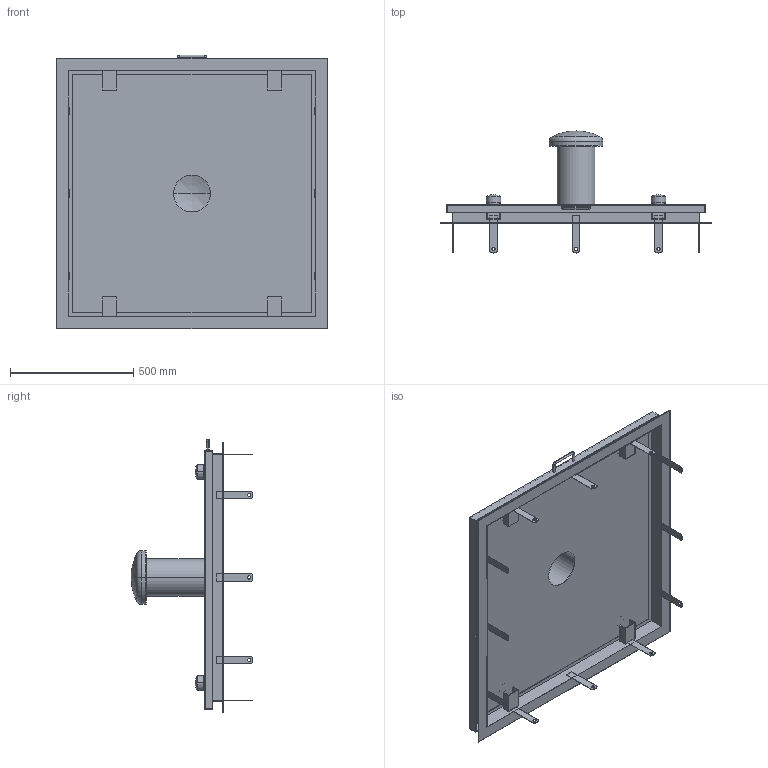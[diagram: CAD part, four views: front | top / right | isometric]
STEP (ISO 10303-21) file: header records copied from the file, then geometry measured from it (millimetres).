
FILE_DESCRIPTION((''),'2;1');
FILE_NAME('52297104','2024-10-01T13:31:23',('hil'),('HUBER SE'),'CREO PARAMETRIC BY PTC INC, 2022162','CREO PARAMETRIC BY PTC INC, 2022162','');
FILE_SCHEMA(('AUTOMOTIVE_DESIGN { 1 0 10303 214 1 1 1 1 }'));
Length unit declared in the file: millimetre
Products named in the file (1): 52297104
Bounding box: 1100 x 495 x 1112 mm (x, y, z)
Volume: 6814242.1 mm3; surface area: 4051813.4 mm2
Topology: 2 solids, 2 shells, 816 faces, 2225 edges, 1458 vertices
Faces by surface type: plane 455, extrusion 275, cylinder 66, bspline 8, sphere 8, torus 4
Entity records: 27642 total; most frequent: CARTESIAN_POINT 7329, ORIENTED_EDGE 4418, DIRECTION 3154, EDGE_CURVE 2209, VECTOR 1780, LINE 1505, VERTEX_POINT 1458, EDGE_LOOP 905
